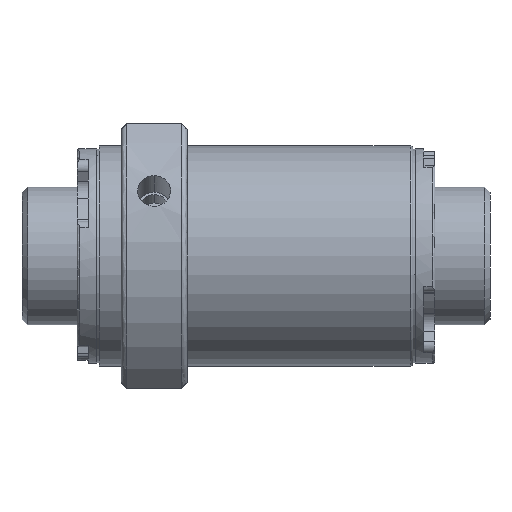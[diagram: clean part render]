
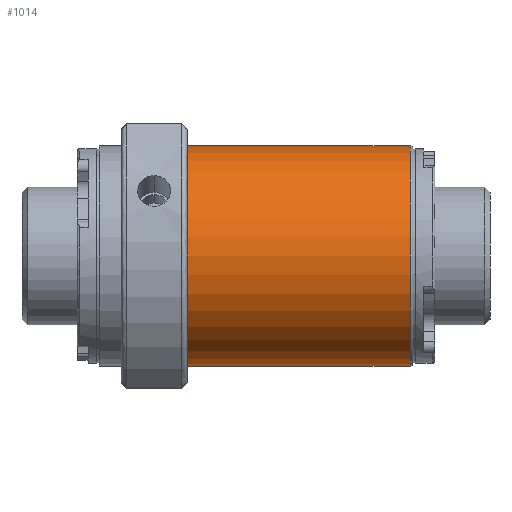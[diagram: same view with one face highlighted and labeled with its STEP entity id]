
A CAD part, front view. The second image highlights one B-rep face of the part: STEP entity #1014.
In plain terms, the highlighted cylindrical face has radius 20 mm (diameter 40 mm), a partial arc.
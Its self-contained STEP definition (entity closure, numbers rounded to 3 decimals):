
#290 = CARTESIAN_POINT ( 'NONE',  ( 19., 0., -20. ) ) ;
#576 = ORIENTED_EDGE ( 'NONE', *, *, #5039, .F. ) ;
#582 = DIRECTION ( 'NONE',  ( -1., 0., 0. ) ) ;
#814 = CARTESIAN_POINT ( 'NONE',  ( 19., 0., 20. ) ) ;
#1014 = ADVANCED_FACE ( 'NONE', ( #5299 ), #2152, .T. ) ;
#1042 = DIRECTION ( 'NONE',  ( 0., 0., -1. ) ) ;
#1599 = EDGE_CURVE ( 'NONE', #5902, #5141, #5565, .T. ) ;
#2152 = CYLINDRICAL_SURFACE ( 'NONE', #2434, 20. ) ;
#2153 = CIRCLE ( 'NONE', #2211, 20. ) ;
#2211 = AXIS2_PLACEMENT_3D ( 'NONE', #3334, #6350, #1042 ) ;
#2232 = CARTESIAN_POINT ( 'NONE',  ( 59.5, 0., -20. ) ) ;
#2434 = AXIS2_PLACEMENT_3D ( 'NONE', #7688, #582, #4751 ) ;
#2733 = VERTEX_POINT ( 'NONE', #290 ) ;
#3171 = CIRCLE ( 'NONE', #6368, 20. ) ;
#3334 = CARTESIAN_POINT ( 'NONE',  ( 59.5, 0., 0. ) ) ;
#3415 = EDGE_LOOP ( 'NONE', ( #576, #6865, #5735, #7336 ) ) ;
#3791 = CARTESIAN_POINT ( 'NONE',  ( 0., 0., -20. ) ) ;
#3955 = CARTESIAN_POINT ( 'NONE',  ( 59.5, 0., 20. ) ) ;
#3958 = VERTEX_POINT ( 'NONE', #2232 ) ;
#4328 = CARTESIAN_POINT ( 'NONE',  ( 0., 0., 20. ) ) ;
#4662 = DIRECTION ( 'NONE',  ( 0., 0., 1. ) ) ;
#4751 = DIRECTION ( 'NONE',  ( 0., 0., 1. ) ) ;
#5039 = EDGE_CURVE ( 'NONE', #3958, #2733, #6157, .T. ) ;
#5141 = VERTEX_POINT ( 'NONE', #814 ) ;
#5299 = FACE_OUTER_BOUND ( 'NONE', #3415, .T. ) ;
#5565 = LINE ( 'NONE', #4328, #7534 ) ;
#5735 = ORIENTED_EDGE ( 'NONE', *, *, #1599, .T. ) ;
#5867 = CARTESIAN_POINT ( 'NONE',  ( 19., 0., 0. ) ) ;
#5902 = VERTEX_POINT ( 'NONE', #3955 ) ;
#6157 = LINE ( 'NONE', #3791, #6825 ) ;
#6350 = DIRECTION ( 'NONE',  ( -1., 0., 0. ) ) ;
#6368 = AXIS2_PLACEMENT_3D ( 'NONE', #5867, #6389, #4662 ) ;
#6389 = DIRECTION ( 'NONE',  ( -1., 0., 0. ) ) ;
#6825 = VECTOR ( 'NONE', #7372, 1000. ) ;
#6865 = ORIENTED_EDGE ( 'NONE', *, *, #7536, .T. ) ;
#7264 = DIRECTION ( 'NONE',  ( -1., 0., 0. ) ) ;
#7329 = EDGE_CURVE ( 'NONE', #2733, #5141, #3171, .T. ) ;
#7336 = ORIENTED_EDGE ( 'NONE', *, *, #7329, .F. ) ;
#7372 = DIRECTION ( 'NONE',  ( -1., 0., 0. ) ) ;
#7534 = VECTOR ( 'NONE', #7264, 1000. ) ;
#7536 = EDGE_CURVE ( 'NONE', #3958, #5902, #2153, .T. ) ;
#7688 = CARTESIAN_POINT ( 'NONE',  ( 0., 0., 0. ) ) ;
